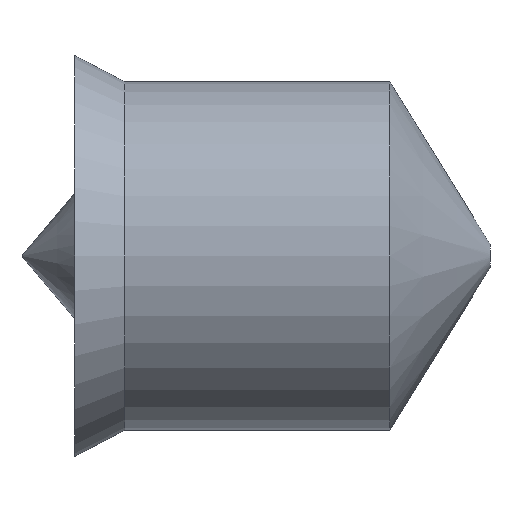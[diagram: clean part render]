
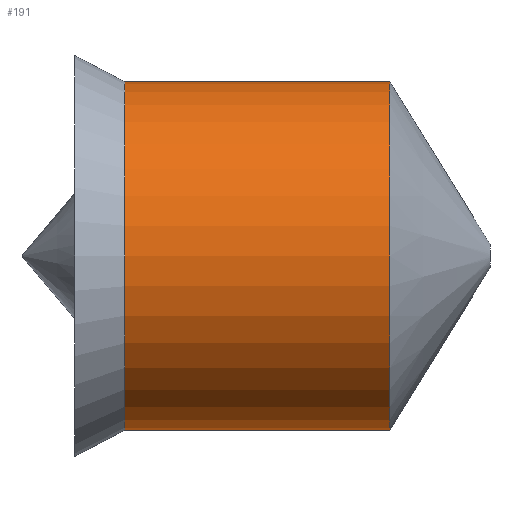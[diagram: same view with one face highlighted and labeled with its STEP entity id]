
A CAD part, left-side view. The second image highlights one B-rep face of the part: STEP entity #191.
In plain terms, the highlighted cylindrical face has radius 36.5 mm (diameter 73 mm), a partial arc.
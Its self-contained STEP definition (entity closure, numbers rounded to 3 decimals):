
#4 = DIRECTION ( 'NONE',  ( 0., 1., 0. ) ) ;
#8 = CARTESIAN_POINT ( 'NONE',  ( 0., 55.5, 0. ) ) ;
#15 = DIRECTION ( 'NONE',  ( 0., -1., 0. ) ) ;
#29 = CIRCLE ( 'NONE', #82, 36.5 ) ;
#31 = FACE_OUTER_BOUND ( 'NONE', #230, .T. ) ;
#38 = ORIENTED_EDGE ( 'NONE', *, *, #104, .T. ) ;
#42 = CIRCLE ( 'NONE', #301, 36.5 ) ;
#48 = DIRECTION ( 'NONE',  ( 0., 0., 1. ) ) ;
#57 = VECTOR ( 'NONE', #178, 1000. ) ;
#64 = ORIENTED_EDGE ( 'NONE', *, *, #287, .T. ) ;
#82 = AXIS2_PLACEMENT_3D ( 'NONE', #138, #4, #48 ) ;
#104 = EDGE_CURVE ( 'NONE', #304, #227, #42, .T. ) ;
#109 = VERTEX_POINT ( 'NONE', #261 ) ;
#111 = ORIENTED_EDGE ( 'NONE', *, *, #281, .F. ) ;
#114 = CARTESIAN_POINT ( 'NONE',  ( 0., 55.5, 36.5 ) ) ;
#115 = AXIS2_PLACEMENT_3D ( 'NONE', #8, #194, #222 ) ;
#121 = EDGE_CURVE ( 'NONE', #109, #157, #29, .T. ) ;
#122 = CYLINDRICAL_SURFACE ( 'NONE', #115, 36.5 ) ;
#138 = CARTESIAN_POINT ( 'NONE',  ( 0., 55.5, 0. ) ) ;
#146 = CARTESIAN_POINT ( 'NONE',  ( 0., 0., 36.5 ) ) ;
#149 = ORIENTED_EDGE ( 'NONE', *, *, #121, .F. ) ;
#154 = CARTESIAN_POINT ( 'NONE',  ( 0., 55.5, 36.5 ) ) ;
#157 = VERTEX_POINT ( 'NONE', #114 ) ;
#178 = DIRECTION ( 'NONE',  ( 0., -1., 0. ) ) ;
#191 = ADVANCED_FACE ( 'NONE', ( #31 ), #122, .T. ) ;
#194 = DIRECTION ( 'NONE',  ( 0., -1., 0. ) ) ;
#202 = LINE ( 'NONE', #154, #271 ) ;
#205 = CARTESIAN_POINT ( 'NONE',  ( 0., 55.5, -36.5 ) ) ;
#210 = CARTESIAN_POINT ( 'NONE',  ( 0., 0., 0. ) ) ;
#222 = DIRECTION ( 'NONE',  ( 0., 0., -1. ) ) ;
#227 = VERTEX_POINT ( 'NONE', #146 ) ;
#230 = EDGE_LOOP ( 'NONE', ( #111, #149, #64, #38 ) ) ;
#240 = DIRECTION ( 'NONE',  ( 0., 1., 0. ) ) ;
#253 = LINE ( 'NONE', #205, #57 ) ;
#257 = CARTESIAN_POINT ( 'NONE',  ( 0., 0., -36.5 ) ) ;
#261 = CARTESIAN_POINT ( 'NONE',  ( 0., 55.5, -36.5 ) ) ;
#271 = VECTOR ( 'NONE', #15, 1000. ) ;
#281 = EDGE_CURVE ( 'NONE', #157, #227, #202, .T. ) ;
#283 = DIRECTION ( 'NONE',  ( 0., 0., 1. ) ) ;
#287 = EDGE_CURVE ( 'NONE', #109, #304, #253, .T. ) ;
#301 = AXIS2_PLACEMENT_3D ( 'NONE', #210, #240, #283 ) ;
#304 = VERTEX_POINT ( 'NONE', #257 ) ;
